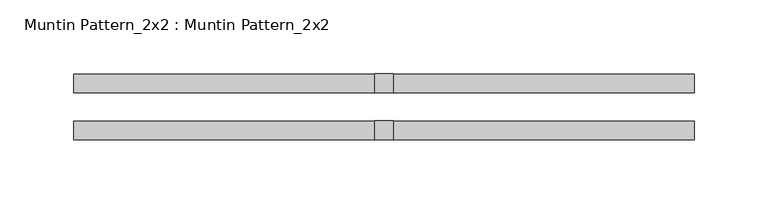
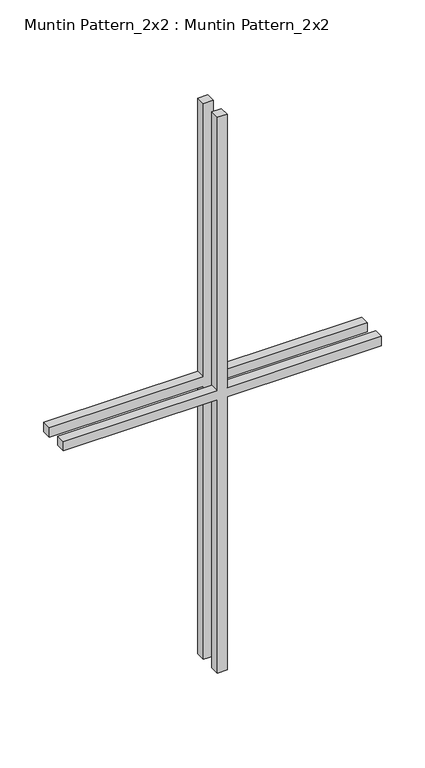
"""IFC4 building model written with IfcOpenShell, lengths in millimetres: proxy geometry, Muntin Pattern_2x2 : Muntin Pattern_2x2."""

from ifc_helpers import new_model, si_unit, frame, origin, place, context, project, spatial, polyline, outline, extrude, source, transform, mapped, element, save


def muntin_pattern_2x2_muntin_pattern_2x2_6aee78e4(model_context):
    return source(origin(), model_context, "Body", "SweptSolid", [
        extrude(outline(polyline([(393.7, -6.35), (393.7, -209.55), (381.0, -209.55), (381.0, -6.35), (0.0, -6.35), (0.0, 6.35), (381.0, 6.35), (381.0, 209.55), (393.7, 209.55), (393.7, 6.35), (774.7, 6.35), (774.7, -6.35), (393.7, -6.35)])), frame((0.0, 9.525, 0.0), z_axis=(0.0, 1.0, 0.0), x_axis=(0.0, 0.0, 1.0)), (0.0, 0.0, 1.0), 12.7),
        extrude(outline(polyline([(393.7, -6.35), (393.7, -209.55), (381.0, -209.55), (381.0, -6.35), (0.0, -6.35), (0.0, 6.35), (381.0, 6.35), (381.0, 209.55), (393.7, 209.55), (393.7, 6.35), (774.7, 6.35), (774.7, -6.35), (393.7, -6.35)])), frame((0.0, -22.225, 0.0), z_axis=(0.0, 1.0, 0.0), x_axis=(0.0, 0.0, 1.0)), (0.0, 0.0, 1.0), 12.7),
    ])


if __name__ == "__main__":
    model = new_model("IFC4")
    model_context = context("Model", 3, world=origin())
    ifc_project = project(units=[si_unit("LENGTHUNIT", "METRE", prefix="MILLI")], contexts=[model_context])
    site = spatial("IfcSite", under=ifc_project)
    building = spatial("IfcBuilding", under=site)
    placement = place(None, origin())
    muntin_pattern_2x2_muntin_pattern_2x2_shape = muntin_pattern_2x2_muntin_pattern_2x2_6aee78e4(model_context)
    element("IfcBuildingElementProxy", 1, Name="Muntin Pattern_2x2 : Muntin Pattern_2x2", ObjectType="Muntin Pattern_2x2 : Muntin Pattern_2x2", at=placement, inside=building, context=model_context, shape_type="MappedRepresentation", body=[
        mapped(muntin_pattern_2x2_muntin_pattern_2x2_shape, transform((0.0, 0.0, 0.0), x_axis=(1.0, 0.0, 0.0), y_axis=(0.0, 1.0, 0.0), z_axis=(0.0, 0.0, 1.0))),
    ])
    save(model, "model.ifc")
